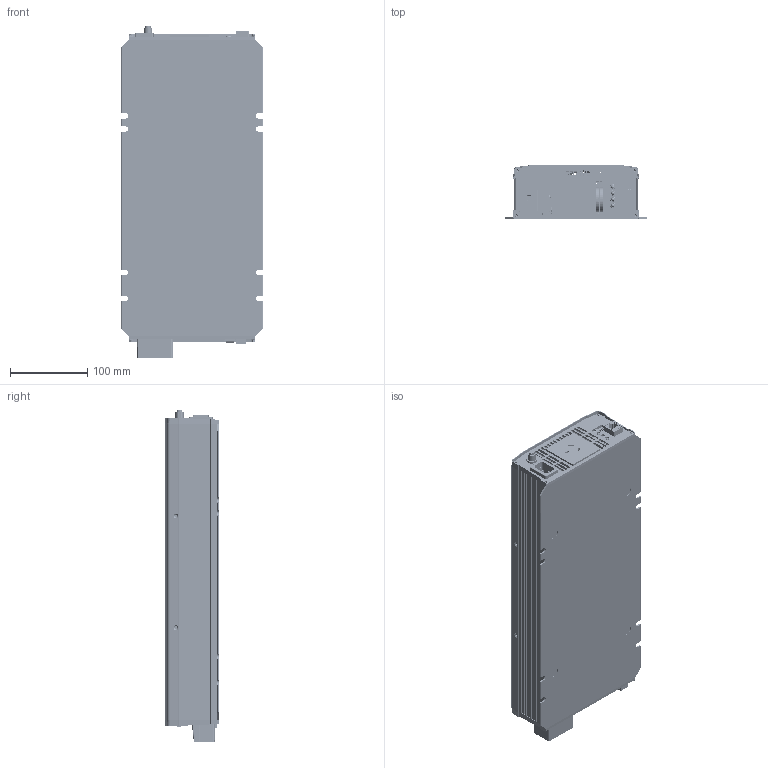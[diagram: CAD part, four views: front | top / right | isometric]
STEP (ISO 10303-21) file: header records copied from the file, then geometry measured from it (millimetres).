
FILE_DESCRIPTION(('Creo Elements/Direct Modeling STEP Export'),'2;1');
FILE_NAME('NTU-1700AU.stp','2022-03-22T10:55:04',(''),(''),'PTC Creo Elements/Direct Modeling STEP processor for AP214 (Solid Model)','PTC Creo Elements/Direct Modeling 19.0E 27-Jun-2016 (C) Parametric Technology GmbH','');
FILE_SCHEMA(('AUTOMOTIVE_DESIGN { 1 0 10303 214 1 1 1 1 }'));
Length unit declared in the file: millimetre
Products named in the file (296): 热敏.1; 热敏; 接地端子; ____-____1_2_.PRT; ____-____1_1_.PRT; ____-____15.PRT; ____-____11_2_.PRT; ____-____10_2_.PRT; ___U-_Y_T4.PRT; _S___S_G_S_NA_S___S_H_X2_02DC__.PRT; _M4-0_5_-_____1_.PRT; _E05-001XX_-_____-___X1_.PRT; TSW; TO247.22; TO247.21; TO247.12; TO247.11; TO220.27; TO220.26; TO220.25; TO220.24; TO220.23; TO220.22; TO220.21; TO220.18; TO220.17; TO220.16; TO220.15; TO220.14; TO220.13; TO220.12; TO220.11; THERMAL_PAD-2_5.PRT; THERMAL_PAD-1_8.PRT; SW65A; SI_PRT_16_1_1_5.PRT; PHONE_JACK_1.PRT; PCBF; PCBE; PCBC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
Assembly tree (125 placements, depth 2):
  热敏.1
    热敏.1
  热敏
    热敏
  接地端子
    接地端子
  ____-____1_2_.PRT
    ____-____1_2_.PRT
  ____-____1_1_.PRT
    ____-____1_1_.PRT
Bounding box: 183.99 x 70 x 431.06 mm (x, y, z)
Volume: 1429918.2 mm3; surface area: 1324309.8 mm2
Topology: 179 solids, 179 shells, 7806 faces, 20818 edges, 13655 vertices
Faces by surface type: plane 5512, cylinder 1615, cone 376, bspline 113, torus 113, sphere 72, extrusion 5
Entity records: 260758 total; most frequent: CARTESIAN_POINT 57566, ORIENTED_EDGE 41292, DIRECTION 36838, EDGE_CURVE 20634, VECTOR 15918, LINE 15913, VERTEX_POINT 13583, AXIS2_PLACEMENT_3D 10460
